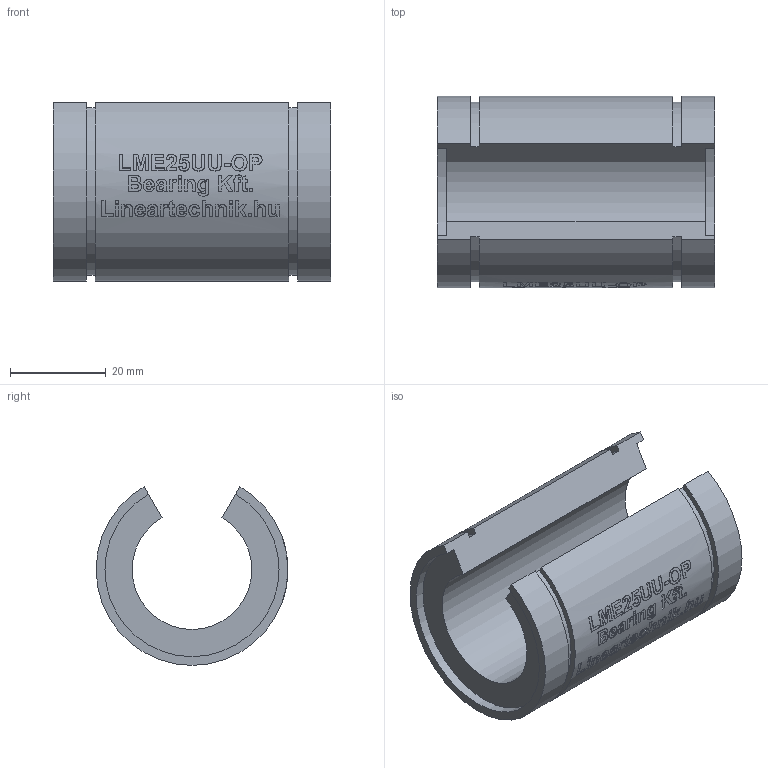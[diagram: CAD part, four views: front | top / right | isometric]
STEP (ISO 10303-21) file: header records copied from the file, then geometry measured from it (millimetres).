
FILE_DESCRIPTION(/* description */ (''),/* implementation_level */ '2;1');
FILE_NAME(/* name */ 'LME25UU-OP',/* time_stamp */ '2019-07-02T16:23:03+02:00',/* author */ ('VĂ©gh MĂˇtĂ©'),/* organization */ ('Bearing Kft'),/* preprocessor_version */ 'ST-DEVELOPER v16.7',/* originating_system */ 'DEX',/* authorisation */ $);
FILE_SCHEMA (('TECHNICAL_DATA_PACKAGING','AUTOMOTIVE_DESIGN {1 0 10303 214 3 1 1}'));
Length unit declared in the file: millimetre
Products named in the file (1): LME25UU-OP
Bounding box: 58 x 40 x 37.32 mm (x, y, z)
Volume: 34705.5 mm3; surface area: 12611.7 mm2
Topology: 1 solids, 1 shells, 340 faces, 865 edges, 577 vertices
Faces by surface type: plane 183, bspline 99, cylinder 58
Entity records: 18869 total; most frequent: CARTESIAN_POINT 11127, ORIENTED_EDGE 1724, DIRECTION 1315, EDGE_CURVE 862, VERTEX_POINT 577, LINE 489, VECTOR 489, AXIS2_PLACEMENT_3D 413
